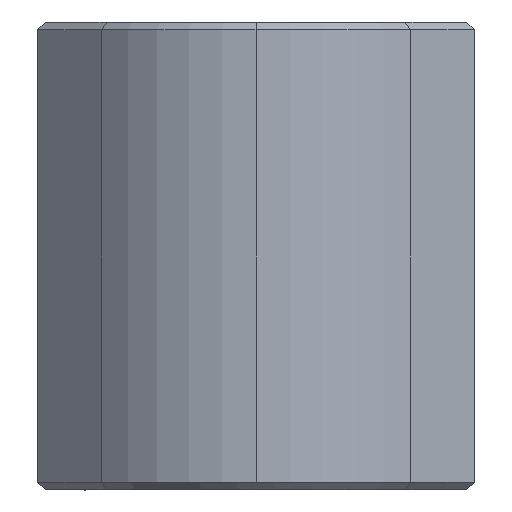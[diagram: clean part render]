
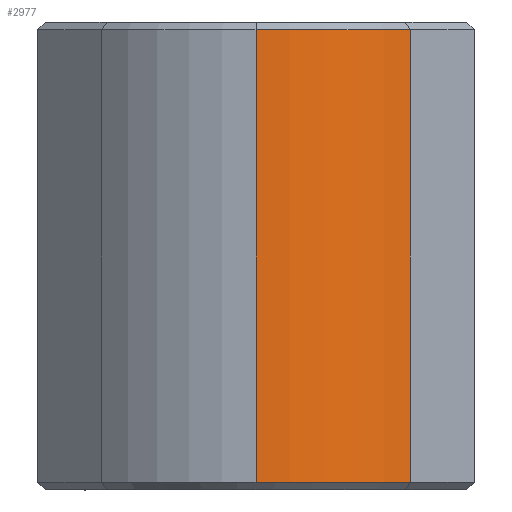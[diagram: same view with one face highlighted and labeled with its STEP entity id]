
A CAD part, left-side view. The second image highlights one B-rep face of the part: STEP entity #2977.
In plain terms, the highlighted cylindrical face has radius 7 mm (diameter 14 mm), a partial arc.
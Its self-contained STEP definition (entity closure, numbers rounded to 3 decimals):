
#111=CYLINDRICAL_SURFACE('',#3369,7.);
#145=FACE_OUTER_BOUND('',#266,.T.);
#266=EDGE_LOOP('',(#2324,#2325,#2326,#2327));
#416=CIRCLE('',#3370,7.);
#417=CIRCLE('',#3371,7.);
#616=LINE('',#4732,#924);
#617=LINE('',#4735,#925);
#924=VECTOR('',#3766,14.5);
#925=VECTOR('',#3769,14.5);
#1260=VERTEX_POINT('',#4728);
#1261=VERTEX_POINT('',#4729);
#1262=VERTEX_POINT('',#4731);
#1263=VERTEX_POINT('',#4733);
#1792=EDGE_CURVE('',#1260,#1261,#416,.T.);
#1793=EDGE_CURVE('',#1261,#1262,#616,.T.);
#1794=EDGE_CURVE('',#1262,#1263,#417,.T.);
#1795=EDGE_CURVE('',#1263,#1260,#617,.T.);
#2324=ORIENTED_EDGE('',*,*,#1792,.T.);
#2325=ORIENTED_EDGE('',*,*,#1793,.T.);
#2326=ORIENTED_EDGE('',*,*,#1794,.T.);
#2327=ORIENTED_EDGE('',*,*,#1795,.T.);
#2977=ADVANCED_FACE('',(#145),#111,.T.);
#3369=AXIS2_PLACEMENT_3D('',#4727,#3762,#3763);
#3370=AXIS2_PLACEMENT_3D('',#4730,#3764,#3765);
#3371=AXIS2_PLACEMENT_3D('',#4734,#3767,#3768);
#3762=DIRECTION('center_axis',(0.,0.,-1.));
#3763=DIRECTION('ref_axis',(-1.,0.,0.));
#3764=DIRECTION('center_axis',(0.,0.,-1.));
#3765=DIRECTION('ref_axis',(-0.707,-0.707,0.));
#3766=DIRECTION('',(0.,0.,-1.));
#3767=DIRECTION('center_axis',(0.,0.,1.));
#3768=DIRECTION('ref_axis',(1.,0.,0.));
#3769=DIRECTION('',(0.,0.,1.));
#4727=CARTESIAN_POINT('Origin',(5.262,-2.373,5.541));
#4728=CARTESIAN_POINT('',(0.312,-7.323,12.791));
#4729=CARTESIAN_POINT('',(-1.738,-2.373,12.791));
#4730=CARTESIAN_POINT('Origin',(5.262,-2.373,12.791));
#4731=CARTESIAN_POINT('',(-1.738,-2.373,-1.709));
#4732=CARTESIAN_POINT('',(-1.738,-2.373,12.791));
#4733=CARTESIAN_POINT('',(0.312,-7.323,-1.709));
#4734=CARTESIAN_POINT('Origin',(5.262,-2.373,-1.709));
#4735=CARTESIAN_POINT('',(0.312,-7.323,-1.709));
